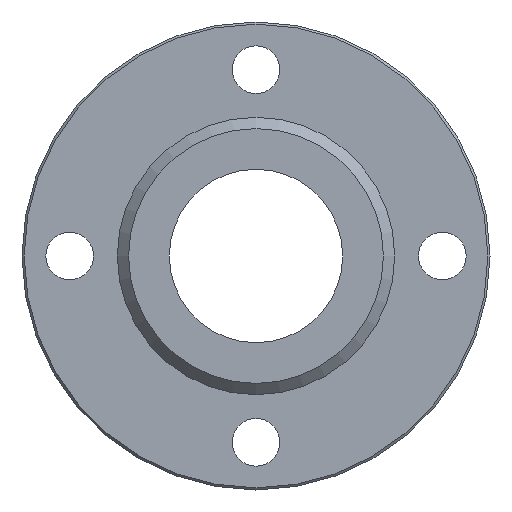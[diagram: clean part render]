
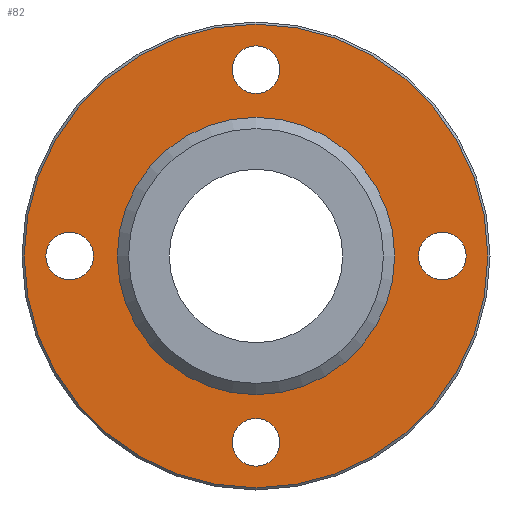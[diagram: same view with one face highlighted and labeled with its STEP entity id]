
A CAD part, left-side view. The second image highlights one B-rep face of the part: STEP entity #82.
In plain terms, the highlighted planar face has unit normal (-1, 0, 0).
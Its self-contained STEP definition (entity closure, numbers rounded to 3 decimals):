
#82=ADVANCED_FACE('',(#125,#126,#127,#128,#129,#130),#131,.F.);
#125=FACE_BOUND('',#205,.T.);
#126=FACE_BOUND('',#206,.T.);
#127=FACE_BOUND('',#207,.T.);
#128=FACE_BOUND('',#208,.T.);
#129=FACE_BOUND('',#209,.T.);
#130=FACE_OUTER_BOUND('',#210,.T.);
#131=PLANE('',#211);
#205=EDGE_LOOP('',(#299));
#206=EDGE_LOOP('',(#300));
#207=EDGE_LOOP('',(#301));
#208=EDGE_LOOP('',(#302));
#209=EDGE_LOOP('',(#303));
#210=EDGE_LOOP('',(#304));
#211=AXIS2_PLACEMENT_3D('',#305,#306,#307);
#299=ORIENTED_EDGE('',*,*,#401,.T.);
#300=ORIENTED_EDGE('',*,*,#402,.T.);
#301=ORIENTED_EDGE('',*,*,#403,.T.);
#302=ORIENTED_EDGE('',*,*,#404,.T.);
#303=ORIENTED_EDGE('',*,*,#405,.T.);
#304=ORIENTED_EDGE('',*,*,#400,.T.);
#305=CARTESIAN_POINT('',(-11.0,26.746,0.0));
#306=DIRECTION('',(1.0,0.0,0.0));
#307=DIRECTION('',(0.0,0.0,-1.0));
#400=EDGE_CURVE('',#440,#440,#441,.T.);
#401=EDGE_CURVE('',#442,#442,#443,.T.);
#402=EDGE_CURVE('',#444,#444,#445,.T.);
#403=EDGE_CURVE('',#446,#446,#447,.T.);
#404=EDGE_CURVE('',#448,#448,#449,.T.);
#405=EDGE_CURVE('',#450,#450,#451,.T.);
#440=VERTEX_POINT('',#496);
#441=CIRCLE('',#497,26.746);
#442=VERTEX_POINT('',#498);
#443=CIRCLE('',#499,16.0);
#444=VERTEX_POINT('',#500);
#445=CIRCLE('',#501,2.75);
#446=VERTEX_POINT('',#502);
#447=CIRCLE('',#503,2.75);
#448=VERTEX_POINT('',#504);
#449=CIRCLE('',#505,2.75);
#450=VERTEX_POINT('',#506);
#451=CIRCLE('',#507,2.75);
#496=CARTESIAN_POINT('',(-11.0,0.0,26.746));
#497=AXIS2_PLACEMENT_3D('',#564,#565,#566);
#498=CARTESIAN_POINT('',(-11.0,0.0,-16.0));
#499=AXIS2_PLACEMENT_3D('',#567,#568,#569);
#500=CARTESIAN_POINT('',(-11.0,0.0,-24.25));
#501=AXIS2_PLACEMENT_3D('',#570,#571,#572);
#502=CARTESIAN_POINT('',(-11.0,21.5,-2.75));
#503=AXIS2_PLACEMENT_3D('',#573,#574,#575);
#504=CARTESIAN_POINT('',(-11.0,-21.5,-2.75));
#505=AXIS2_PLACEMENT_3D('',#576,#577,#578);
#506=CARTESIAN_POINT('',(-11.0,0.0,18.75));
#507=AXIS2_PLACEMENT_3D('',#579,#580,#581);
#564=CARTESIAN_POINT('',(-11.0,0.0,0.0));
#565=DIRECTION('',(-1.0,0.0,0.0));
#566=DIRECTION('',(0.0,0.0,1.0));
#567=CARTESIAN_POINT('',(-11.0,0.0,0.0));
#568=DIRECTION('',(1.0,0.0,0.0));
#569=DIRECTION('',(0.0,0.0,-1.0));
#570=CARTESIAN_POINT('',(-11.0,0.0,-21.5));
#571=DIRECTION('',(1.0,0.0,0.0));
#572=DIRECTION('',(0.0,0.0,-1.0));
#573=CARTESIAN_POINT('',(-11.0,21.5,0.0));
#574=DIRECTION('',(1.0,0.0,0.0));
#575=DIRECTION('',(0.0,0.0,-1.0));
#576=CARTESIAN_POINT('',(-11.0,-21.5,0.0));
#577=DIRECTION('',(1.0,0.0,0.0));
#578=DIRECTION('',(0.0,0.0,-1.0));
#579=CARTESIAN_POINT('',(-11.0,0.0,21.5));
#580=DIRECTION('',(1.0,0.0,0.0));
#581=DIRECTION('',(0.0,0.0,-1.0));
